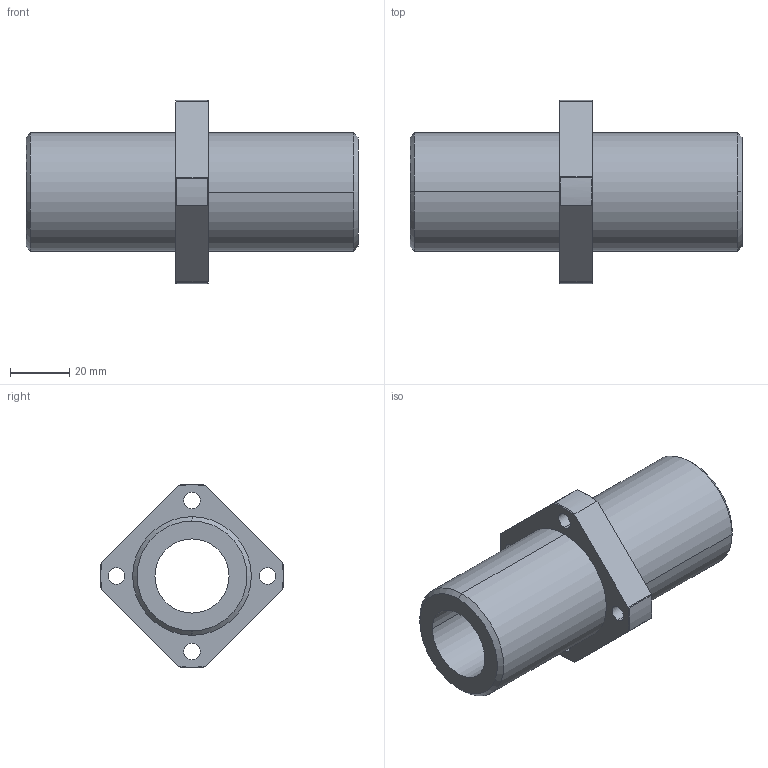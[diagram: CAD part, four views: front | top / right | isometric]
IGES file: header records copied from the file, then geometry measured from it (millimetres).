
Start section: 3D InterOp IGES (Version 21 0 1), Spatial Corp. Copyright (c) 1999-2007.
Global section: file name: CFPJ25.igs; native system: Spatial Corp.; preprocessor: 3D InterOp GENERIC/IGES 3.0; author: Noname; organization: Noname; date: 20220324.130017; units: millimetre
Bounding box: 112 x 61.92 x 62 mm (x, y, z)
Surface area: 27933.5 mm2 (no closed solid volume)
Topology: 0 solids, 0 shells, 53 faces, 264 edges, 264 vertices
Faces by surface type: revolution 41, extrusion 12
